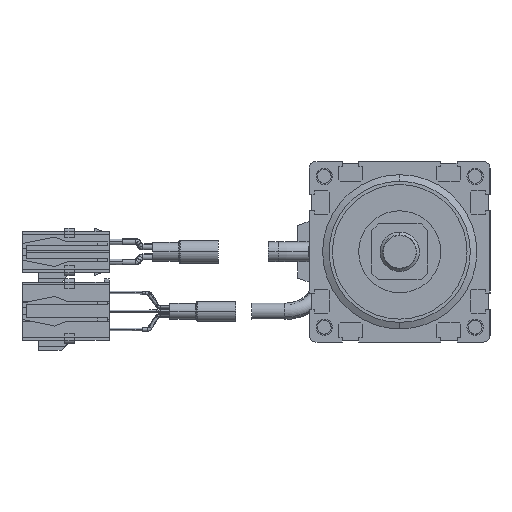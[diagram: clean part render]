
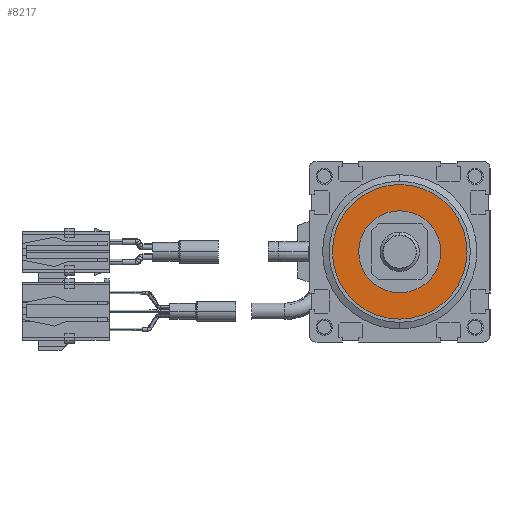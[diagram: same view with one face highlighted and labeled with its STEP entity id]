
A CAD part, left-side view. The second image highlights one B-rep face of the part: STEP entity #8217.
In plain terms, the highlighted planar face has unit normal (-1, 0, 0).
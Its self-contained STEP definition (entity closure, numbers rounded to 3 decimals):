
#1965=CARTESIAN_POINT('',(-441.,0.,0.));
#1966=DIRECTION('',(1.,0.,0.));
#1967=DIRECTION('',(0.,1.,0.));
#1968=AXIS2_PLACEMENT_3D('',#1965,#1966,#1967);
#1970=CARTESIAN_POINT('',(-441.,0.,0.));
#1971=DIRECTION('',(1.,0.,0.));
#1972=DIRECTION('',(0.,-1.,0.));
#1973=AXIS2_PLACEMENT_3D('',#1970,#1971,#1972);
#1975=CARTESIAN_POINT('',(-441.,0.,0.));
#1976=DIRECTION('',(-1.,0.,0.));
#1977=DIRECTION('',(0.,0.,1.));
#1978=AXIS2_PLACEMENT_3D('',#1975,#1976,#1977);
#1980=CARTESIAN_POINT('',(-441.,0.,0.));
#1981=DIRECTION('',(-1.,0.,0.));
#1982=DIRECTION('',(0.,0.,-1.));
#1983=AXIS2_PLACEMENT_3D('',#1980,#1981,#1982);
#4225=CARTESIAN_POINT('',(-441.,20.5,0.));
#4226=VERTEX_POINT('',#4225);
#4227=CARTESIAN_POINT('',(-441.,-20.5,0.));
#4228=VERTEX_POINT('',#4227);
#5359=CARTESIAN_POINT('',(-441.,0.,12.5));
#5360=CARTESIAN_POINT('',(-441.,0.,-12.5));
#5361=VERTEX_POINT('',#5359);
#5362=VERTEX_POINT('',#5360);
#8202=CARTESIAN_POINT('',(-441.,0.,0.));
#8203=DIRECTION('',(1.,0.,0.));
#8204=DIRECTION('',(0.,1.,0.));
#8205=AXIS2_PLACEMENT_3D('',#8202,#8203,#8204);
#8206=PLANE('',#8205);
#8207=ORIENTED_EDGE('',*,*,#8182,.T.);
#8208=ORIENTED_EDGE('',*,*,#8196,.T.);
#8209=EDGE_LOOP('',(#8207,#8208));
#8210=FACE_OUTER_BOUND('',#8209,.F.);
#8212=ORIENTED_EDGE('',*,*,#8211,.T.);
#8214=ORIENTED_EDGE('',*,*,#8213,.T.);
#8215=EDGE_LOOP('',(#8212,#8214));
#8216=FACE_BOUND('',#8215,.F.);
#8217=ADVANCED_FACE('',(#8210,#8216),#8206,.F.);
#1969=CIRCLE('',#1968,20.5);
#1974=CIRCLE('',#1973,20.5);
#1979=CIRCLE('',#1978,12.5);
#1984=CIRCLE('',#1983,12.5);
#8182=EDGE_CURVE('',#4226,#4228,#1969,.T.);
#8196=EDGE_CURVE('',#4228,#4226,#1974,.T.);
#8211=EDGE_CURVE('',#5361,#5362,#1979,.T.);
#8213=EDGE_CURVE('',#5362,#5361,#1984,.T.);
